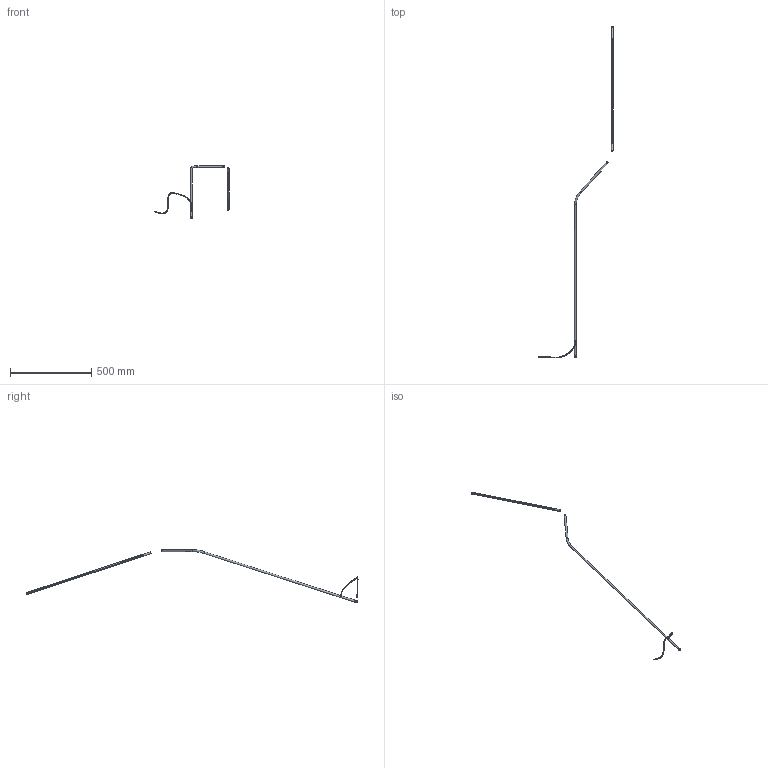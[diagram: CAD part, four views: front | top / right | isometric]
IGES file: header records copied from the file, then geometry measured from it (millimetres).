
Start section: SolidWorks IGES file using analytic representation for surfaces
Global section: file name: N:\- Ingeneria\DISEGNI\PRODOTTI\NEO\800NEOLNN211\NEO.IGS; native system: SolidWorks 2016; preprocessor: SolidWorks 2016; author: blivolsi; date: 200924.171301; units: millimetre
Bounding box: 458.56 x 2048.37 x 329.98 mm (x, y, z)
Surface area: 131873.1 mm2 (no closed solid volume)
Topology: 0 solids, 0 shells, 654 faces, 5647 edges, 5486 vertices
Faces by surface type: revolution 381, bspline 273
